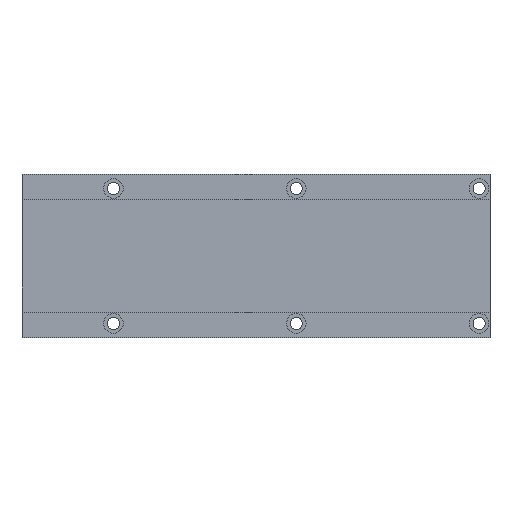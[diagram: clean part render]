
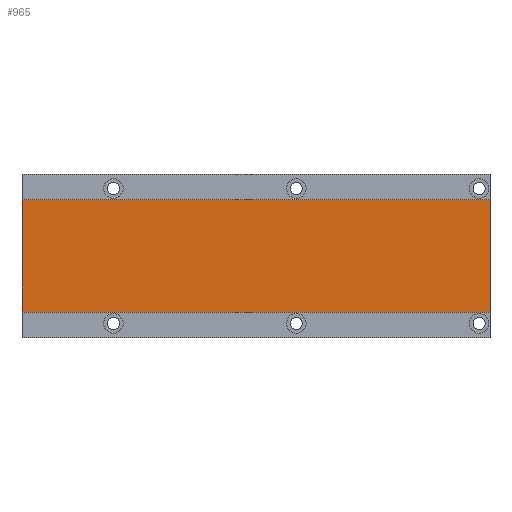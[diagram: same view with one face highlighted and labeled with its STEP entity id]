
A CAD part, top view. The second image highlights one B-rep face of the part: STEP entity #965.
In plain terms, the highlighted planar face has unit normal (0, 0, 1).
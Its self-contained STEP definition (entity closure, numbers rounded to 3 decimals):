
#23 = VERTEX_POINT ( 'NONE', #412 ) ;
#39 = DIRECTION ( 'NONE',  ( 1., 0., 0. ) ) ;
#63 = DIRECTION ( 'NONE',  ( 0., -1., 0. ) ) ;
#77 = EDGE_CURVE ( 'NONE', #271, #633, #781, .T. ) ;
#131 = DIRECTION ( 'NONE',  ( 1., 0., 0. ) ) ;
#160 = VECTOR ( 'NONE', #580, 1000. ) ;
#166 = VECTOR ( 'NONE', #418, 1000. ) ;
#167 = EDGE_CURVE ( 'NONE', #560, #633, #470, .T. ) ;
#195 = CARTESIAN_POINT ( 'NONE',  ( -126., 25.75, 10.5 ) ) ;
#213 = VECTOR ( 'NONE', #63, 1000. ) ;
#271 = VERTEX_POINT ( 'NONE', #970 ) ;
#320 = EDGE_CURVE ( 'NONE', #23, #271, #915, .T. ) ;
#385 = FACE_OUTER_BOUND ( 'NONE', #992, .T. ) ;
#386 = LINE ( 'NONE', #195, #160 ) ;
#412 = CARTESIAN_POINT ( 'NONE',  ( -126., 25.75, 10.5 ) ) ;
#418 = DIRECTION ( 'NONE',  ( 0., -1., 0. ) ) ;
#470 = LINE ( 'NONE', #1201, #213 ) ;
#506 = PLANE ( 'NONE',  #533 ) ;
#509 = DIRECTION ( 'NONE',  ( 0., 0., 1. ) ) ;
#533 = AXIS2_PLACEMENT_3D ( 'NONE', #1087, #509, #131 ) ;
#560 = VERTEX_POINT ( 'NONE', #1202 ) ;
#580 = DIRECTION ( 'NONE',  ( -1., 0., 0. ) ) ;
#633 = VERTEX_POINT ( 'NONE', #918 ) ;
#663 = VECTOR ( 'NONE', #39, 1000. ) ;
#696 = ORIENTED_EDGE ( 'NONE', *, *, #320, .T. ) ;
#749 = ORIENTED_EDGE ( 'NONE', *, *, #77, .T. ) ;
#754 = EDGE_CURVE ( 'NONE', #560, #23, #386, .T. ) ;
#781 = LINE ( 'NONE', #1092, #663 ) ;
#784 = ORIENTED_EDGE ( 'NONE', *, *, #754, .T. ) ;
#905 = CARTESIAN_POINT ( 'NONE',  ( -126., 25.75, 10.5 ) ) ;
#915 = LINE ( 'NONE', #905, #166 ) ;
#918 = CARTESIAN_POINT ( 'NONE',  ( 89., -25.75, 10.5 ) ) ;
#965 = ADVANCED_FACE ( 'NONE', ( #385 ), #506, .T. ) ;
#970 = CARTESIAN_POINT ( 'NONE',  ( -126., -25.75, 10.5 ) ) ;
#992 = EDGE_LOOP ( 'NONE', ( #1097, #784, #696, #749 ) ) ;
#1087 = CARTESIAN_POINT ( 'NONE',  ( 0., 0., 10.5 ) ) ;
#1092 = CARTESIAN_POINT ( 'NONE',  ( -126., -25.75, 10.5 ) ) ;
#1097 = ORIENTED_EDGE ( 'NONE', *, *, #167, .F. ) ;
#1201 = CARTESIAN_POINT ( 'NONE',  ( 89., 0., 10.5 ) ) ;
#1202 = CARTESIAN_POINT ( 'NONE',  ( 89., 25.75, 10.5 ) ) ;
